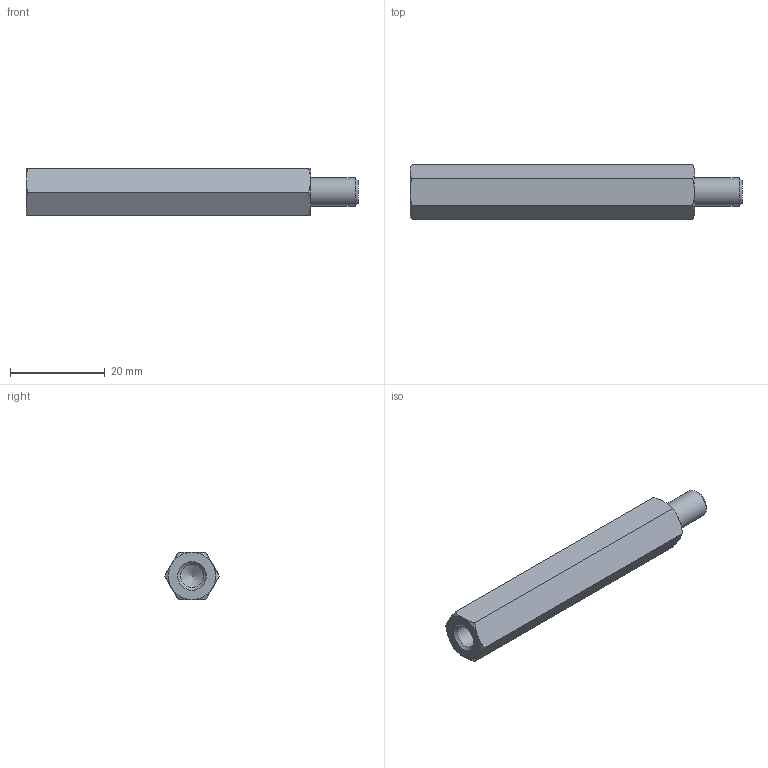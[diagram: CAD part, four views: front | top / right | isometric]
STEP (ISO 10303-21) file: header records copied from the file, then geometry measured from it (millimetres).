
FILE_DESCRIPTION( ( 'STEP AP203' ), '1' );
FILE_NAME( 'C:/Temp/Ganter_Step_05_03_2020/data/3_2/gn6220/gn6220_ni/Stainless Steel-Spacer GN 6220-NI-M6-60-B.stp', '2020-03-13T05:43:16', ( 'License CC BY-ND 4.0' ), ( 'CADENAS' ), ' ', 'PARTsolutions', ' ' );
FILE_SCHEMA( ( 'CONFIG_CONTROL_DESIGN' ) );
Length unit declared in the file: millimetre
Products named in the file (1): _Stainless Steel-Spacer GN 6220-NI-M6-60-B
Bounding box: 70 x 11.55 x 10 mm (x, y, z)
Volume: 5137 mm3; surface area: 2687.6 mm2
Topology: 1 solids, 1 shells, 26 faces, 55 edges, 32 vertices
Faces by surface type: cone 15, plane 9, cylinder 2
Full cylindrical faces by diameter (mm): 4.917 x1, 6 x1
Entity records: 762 total; most frequent: CARTESIAN_POINT 226, DIRECTION 96, ORIENTED_EDGE 96, EDGE_CURVE 48, AXIS2_PLACEMENT_3D 45, EDGE_LOOP 32, VERTEX_POINT 31, FACE_OUTER_BOUND 28
